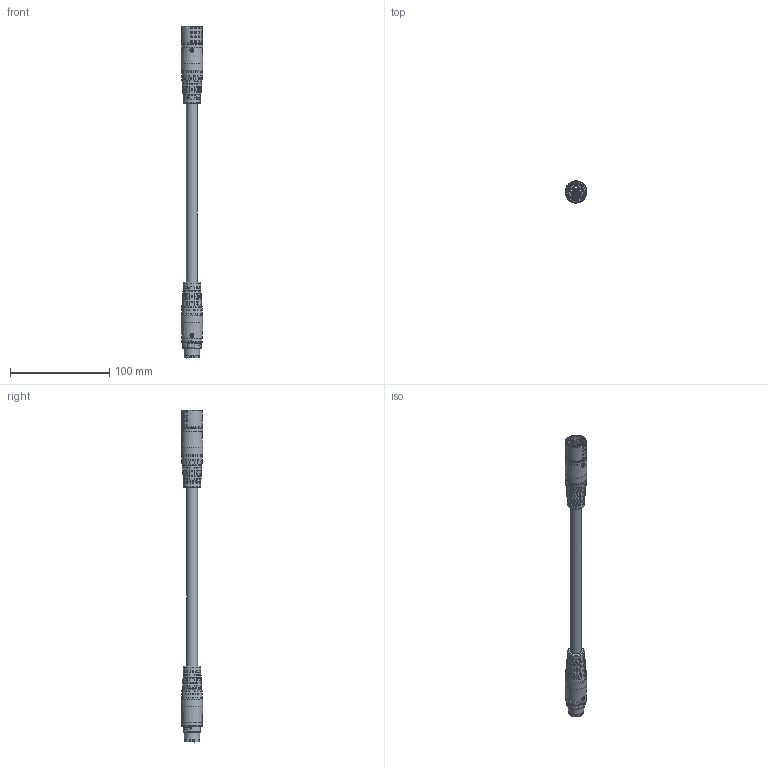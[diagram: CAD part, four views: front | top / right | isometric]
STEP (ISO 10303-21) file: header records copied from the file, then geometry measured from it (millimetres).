
FILE_DESCRIPTION (( 'STEP AP203' ), '1' );
FILE_NAME ('1119887_W-TEC_15K_STI_BU_STEP.STEP', '2023-09-05T10:12:16', ( '' ), ( '' ), 'SwSTEP 2.0', 'SolidWorks 2021', '' );
FILE_SCHEMA (( 'CONFIG_CONTROL_DESIGN' ));
Length unit declared in the file: millimetre
Products named in the file (1): 1119887_W-TEC_15K_STI_BU_STEP
Bounding box: 21.79 x 21.87 x 334.06 mm (x, y, z)
Surface area: 21908.3 mm2 (no closed solid volume)
Topology: 0 solids, 31 shells, 916 faces, 3631 edges, 2546 vertices
Faces by surface type: bspline 382, plane 242, cylinder 219, cone 50, torus 19, sphere 4
Full cylindrical faces by diameter (mm): 1.6 x3, 3.3 x6, 4 x2, 4.2 x3, 4.4 x3, 11.1 x1, 15.2 x1, 15.4 x1, 17.384 x2, 18.304 x1, 18.4 x1, 21.24 x2, 21.72 x2
Entity records: 61260 total; most frequent: CARTESIAN_POINT 37397, ORIENTED_EDGE 5277, EDGE_CURVE 3445, DIRECTION 3402, VERTEX_POINT 2494, B_SPLINE_CURVE_WITH_KNOTS 1664, AXIS2_PLACEMENT_3D 1234, EDGE_LOOP 1092
